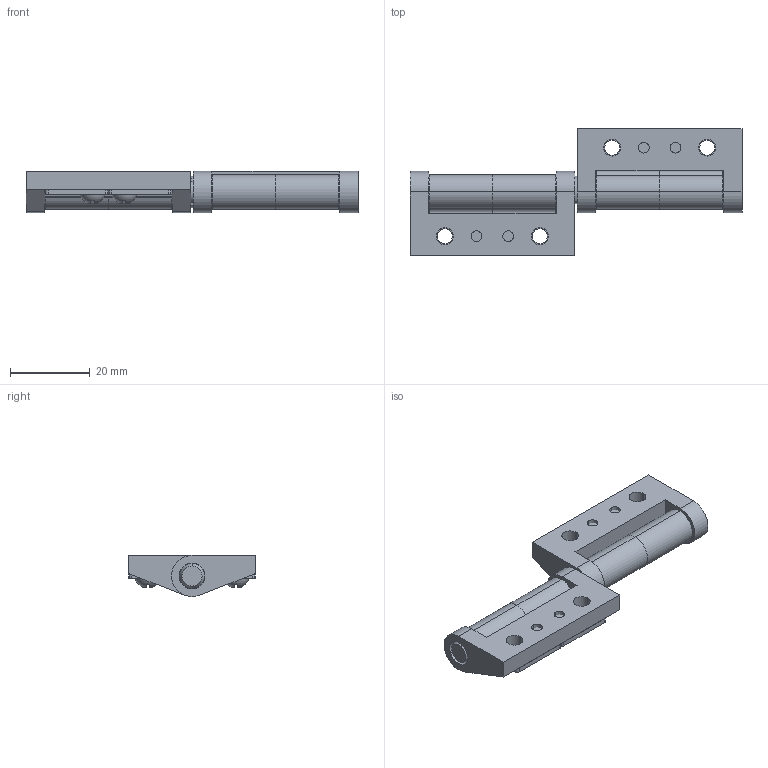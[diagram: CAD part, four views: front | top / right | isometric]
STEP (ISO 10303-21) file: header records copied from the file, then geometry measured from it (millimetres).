
FILE_DESCRIPTION(('STEP AP214'),'1');
FILE_NAME('C:/Users/HAN/Desktop/2000-0402-HNG L Rev 0_0.stp','2012-12-04T02:54:13',(' '),(' '),'Spatial InterOp 3D',' ',' ');
FILE_SCHEMA(('automotive_design'));
Length unit declared in the file: inch
Products named in the file (12): 2000-0001-BND Rev 0_0; 2000-0004-SHA Rev 0_0; 2000-0001-HOU Rev 0_0; Screw : Round - 0.138 x 0.1875; Snap Ring 2000-25
Bounding box: 83.19 x 31.75 x 10.31 mm (x, y, z)
Volume: 10552.3 mm3; surface area: 11532.7 mm2
Topology: 12 solids, 12 shells, 328 faces, 858 edges, 560 vertices
Faces by surface type: plane 180, cylinder 128, cone 12, sphere 8
Entity records: 13219 total; most frequent: CARTESIAN_POINT 1974, DIRECTION 1858, ORIENTED_EDGE 1716, EDGE_CURVE 858, AXIS2_PLACEMENT_3D 676, VERTEX_POINT 560, LINE 506, VECTOR 506
